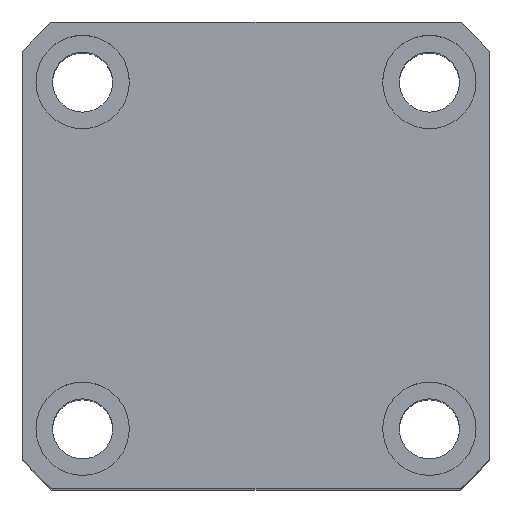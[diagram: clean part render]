
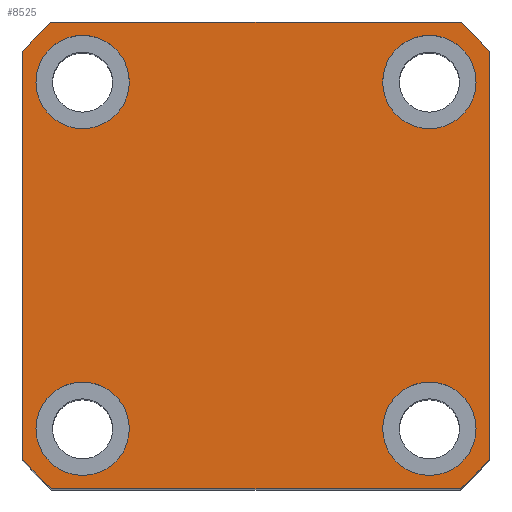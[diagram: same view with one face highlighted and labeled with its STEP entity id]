
A CAD part, top view. The second image highlights one B-rep face of the part: STEP entity #8525.
In plain terms, the highlighted planar face has unit normal (0, 0, 1).
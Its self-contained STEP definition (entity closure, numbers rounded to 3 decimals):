
#95 = CARTESIAN_POINT ( 'NONE',  ( 33., 26., 105. ) ) ;
#166 = ORIENTED_EDGE ( 'NONE', *, *, #11363, .T. ) ;
#173 = AXIS2_PLACEMENT_3D ( 'NONE', #8719, #2447, #9776 ) ;
#181 = CARTESIAN_POINT ( 'NONE',  ( -35., 35., 105. ) ) ;
#194 = VERTEX_POINT ( 'NONE', #4315 ) ;
#300 = ORIENTED_EDGE ( 'NONE', *, *, #3743, .F. ) ;
#516 = CARTESIAN_POINT ( 'NONE',  ( 19., 26., 105. ) ) ;
#624 = CARTESIAN_POINT ( 'NONE',  ( 30.615, 35., 105. ) ) ;
#759 = VERTEX_POINT ( 'NONE', #624 ) ;
#825 = DIRECTION ( 'NONE',  ( 0., 0., 1. ) ) ;
#907 = CARTESIAN_POINT ( 'NONE',  ( 33., -26., 105. ) ) ;
#1217 = EDGE_LOOP ( 'NONE', ( #8438, #6293 ) ) ;
#1309 = FACE_BOUND ( 'NONE', #1217, .T. ) ;
#1448 = EDGE_CURVE ( 'NONE', #194, #10949, #11471, .T. ) ;
#1556 = CARTESIAN_POINT ( 'NONE',  ( 26., 26., 105. ) ) ;
#1774 = CARTESIAN_POINT ( 'NONE',  ( 26., -26., 105. ) ) ;
#1781 = VERTEX_POINT ( 'NONE', #1876 ) ;
#1834 = AXIS2_PLACEMENT_3D ( 'NONE', #9453, #3192, #10516 ) ;
#1876 = CARTESIAN_POINT ( 'NONE',  ( -30.615, 35., 105. ) ) ;
#1946 = LINE ( 'NONE', #2191, #13389 ) ;
#2007 = DIRECTION ( 'NONE',  ( 1., 0., 0. ) ) ;
#2052 = DIRECTION ( 'NONE',  ( 0., 0., 1. ) ) ;
#2092 = CIRCLE ( 'NONE', #173, 46.5 ) ;
#2104 = CARTESIAN_POINT ( 'NONE',  ( -26., 26., 105. ) ) ;
#2191 = CARTESIAN_POINT ( 'NONE',  ( -35., -35., 105. ) ) ;
#2281 = DIRECTION ( 'NONE',  ( 0., -1., 0. ) ) ;
#2445 = EDGE_CURVE ( 'NONE', #9306, #12026, #11429, .T. ) ;
#2447 = DIRECTION ( 'NONE',  ( 0., 0., 1. ) ) ;
#2479 = EDGE_CURVE ( 'NONE', #759, #1781, #11107, .T. ) ;
#2513 = AXIS2_PLACEMENT_3D ( 'NONE', #11117, #4828, #12150 ) ;
#2556 = AXIS2_PLACEMENT_3D ( 'NONE', #11596, #5329, #12644 ) ;
#2637 = DIRECTION ( 'NONE',  ( 1., 0., 0. ) ) ;
#2640 = VERTEX_POINT ( 'NONE', #907 ) ;
#2668 = DIRECTION ( 'NONE',  ( 0., 0., 1. ) ) ;
#2845 = DIRECTION ( 'NONE',  ( 1., 0., 0. ) ) ;
#3068 = VERTEX_POINT ( 'NONE', #13459 ) ;
#3167 = ORIENTED_EDGE ( 'NONE', *, *, #4398, .T. ) ;
#3171 = CARTESIAN_POINT ( 'NONE',  ( 35., -30.615, 105. ) ) ;
#3192 = DIRECTION ( 'NONE',  ( 0., 0., 1. ) ) ;
#3230 = CIRCLE ( 'NONE', #2513, 46.5 ) ;
#3231 = CARTESIAN_POINT ( 'NONE',  ( 0., 0., 105. ) ) ;
#3256 = ORIENTED_EDGE ( 'NONE', *, *, #2445, .T. ) ;
#3381 = CIRCLE ( 'NONE', #1834, 7. ) ;
#3513 = ORIENTED_EDGE ( 'NONE', *, *, #13531, .T. ) ;
#3578 = CARTESIAN_POINT ( 'NONE',  ( 19., -26., 105. ) ) ;
#3583 = EDGE_CURVE ( 'NONE', #10949, #194, #6018, .T. ) ;
#3743 = EDGE_CURVE ( 'NONE', #2640, #5427, #10946, .T. ) ;
#4021 = EDGE_CURVE ( 'NONE', #7559, #12134, #4399, .T. ) ;
#4216 = CARTESIAN_POINT ( 'NONE',  ( -35., 30.615, 105. ) ) ;
#4270 = DIRECTION ( 'NONE',  ( 1., 0., 0. ) ) ;
#4315 = CARTESIAN_POINT ( 'NONE',  ( -33., 26., 105. ) ) ;
#4382 = CARTESIAN_POINT ( 'NONE',  ( -35., 35., 105. ) ) ;
#4398 = EDGE_CURVE ( 'NONE', #3068, #9306, #2092, .T. ) ;
#4399 = CIRCLE ( 'NONE', #2556, 7. ) ;
#4583 = VERTEX_POINT ( 'NONE', #4709 ) ;
#4673 = CARTESIAN_POINT ( 'NONE',  ( -19., -26., 105. ) ) ;
#4709 = CARTESIAN_POINT ( 'NONE',  ( -30.615, -35., 105. ) ) ;
#4712 = EDGE_CURVE ( 'NONE', #5427, #2640, #6352, .T. ) ;
#4795 = DIRECTION ( 'NONE',  ( 0., 0., 1. ) ) ;
#4828 = DIRECTION ( 'NONE',  ( 0., 0., 1. ) ) ;
#4900 = AXIS2_PLACEMENT_3D ( 'NONE', #2104, #2052, #2007 ) ;
#4981 = ORIENTED_EDGE ( 'NONE', *, *, #4712, .F. ) ;
#5161 = EDGE_LOOP ( 'NONE', ( #3256, #6207, #6866, #166, #12980, #5633, #3513, #3167 ) ) ;
#5268 = DIRECTION ( 'NONE',  ( 0., 1., 0. ) ) ;
#5329 = DIRECTION ( 'NONE',  ( 0., 0., 1. ) ) ;
#5414 = CARTESIAN_POINT ( 'NONE',  ( 35., 35., 105. ) ) ;
#5427 = VERTEX_POINT ( 'NONE', #3578 ) ;
#5606 = AXIS2_PLACEMENT_3D ( 'NONE', #1774, #9107, #2845 ) ;
#5633 = ORIENTED_EDGE ( 'NONE', *, *, #11239, .T. ) ;
#5759 = DIRECTION ( 'NONE',  ( 1., 0., 0. ) ) ;
#5775 = DIRECTION ( 'NONE',  ( 0., 0., 1. ) ) ;
#5795 = VERTEX_POINT ( 'NONE', #4673 ) ;
#5820 = CARTESIAN_POINT ( 'NONE',  ( -26., 26., 105. ) ) ;
#5874 = CARTESIAN_POINT ( 'NONE',  ( -19., 26., 105. ) ) ;
#6018 = CIRCLE ( 'NONE', #4900, 7. ) ;
#6171 = VECTOR ( 'NONE', #5268, 1000. ) ;
#6207 = ORIENTED_EDGE ( 'NONE', *, *, #6698, .T. ) ;
#6235 = CARTESIAN_POINT ( 'NONE',  ( 35., 30.615, 105. ) ) ;
#6293 = ORIENTED_EDGE ( 'NONE', *, *, #4021, .F. ) ;
#6352 = CIRCLE ( 'NONE', #5606, 7. ) ;
#6561 = FACE_OUTER_BOUND ( 'NONE', #5161, .T. ) ;
#6698 = EDGE_CURVE ( 'NONE', #12026, #759, #12956, .T. ) ;
#6776 = ORIENTED_EDGE ( 'NONE', *, *, #1448, .F. ) ;
#6842 = DIRECTION ( 'NONE',  ( 1., 0., 0. ) ) ;
#6866 = ORIENTED_EDGE ( 'NONE', *, *, #2479, .T. ) ;
#7003 = EDGE_CURVE ( 'NONE', #9705, #5795, #11339, .T. ) ;
#7114 = CARTESIAN_POINT ( 'NONE',  ( 0., 0., 105. ) ) ;
#7321 = VECTOR ( 'NONE', #2281, 1000. ) ;
#7397 = AXIS2_PLACEMENT_3D ( 'NONE', #8927, #4795, #12119 ) ;
#7448 = AXIS2_PLACEMENT_3D ( 'NONE', #5820, #5775, #5759 ) ;
#7460 = AXIS2_PLACEMENT_3D ( 'NONE', #3231, #10561, #4270 ) ;
#7513 = AXIS2_PLACEMENT_3D ( 'NONE', #1556, #8901, #2637 ) ;
#7559 = VERTEX_POINT ( 'NONE', #516 ) ;
#8174 = DIRECTION ( 'NONE',  ( 1., 0., 0. ) ) ;
#8290 = VERTEX_POINT ( 'NONE', #4216 ) ;
#8311 = VECTOR ( 'NONE', #11823, 1000. ) ;
#8438 = ORIENTED_EDGE ( 'NONE', *, *, #10427, .F. ) ;
#8468 = DIRECTION ( 'NONE',  ( 1., 0., 0. ) ) ;
#8471 = CIRCLE ( 'NONE', #10226, 46.5 ) ;
#8525 = ADVANCED_FACE ( 'NONE', ( #9690, #9340, #1309, #12120, #6561 ), #8968, .T. ) ;
#8719 = CARTESIAN_POINT ( 'NONE',  ( 0., 0., 105. ) ) ;
#8786 = DIRECTION ( 'NONE',  ( 0., 0., 1. ) ) ;
#8831 = CARTESIAN_POINT ( 'NONE',  ( 26., -26., 105. ) ) ;
#8901 = DIRECTION ( 'NONE',  ( 0., 0., 1. ) ) ;
#8914 = ORIENTED_EDGE ( 'NONE', *, *, #3583, .F. ) ;
#8927 = CARTESIAN_POINT ( 'NONE',  ( 0., 0., 105. ) ) ;
#8932 = CARTESIAN_POINT ( 'NONE',  ( -26., -26., 105. ) ) ;
#8968 = PLANE ( 'NONE',  #7397 ) ;
#9107 = DIRECTION ( 'NONE',  ( 0., 0., 1. ) ) ;
#9306 = VERTEX_POINT ( 'NONE', #3171 ) ;
#9340 = FACE_BOUND ( 'NONE', #12525, .T. ) ;
#9453 = CARTESIAN_POINT ( 'NONE',  ( -26., -26., 105. ) ) ;
#9690 = FACE_BOUND ( 'NONE', #10246, .T. ) ;
#9705 = VERTEX_POINT ( 'NONE', #12383 ) ;
#9776 = DIRECTION ( 'NONE',  ( 1., 0., 0. ) ) ;
#9833 = EDGE_CURVE ( 'NONE', #8290, #11161, #12893, .T. ) ;
#9837 = AXIS2_PLACEMENT_3D ( 'NONE', #8831, #8786, #6842 ) ;
#9989 = DIRECTION ( 'NONE',  ( 1., 0., 0. ) ) ;
#10226 = AXIS2_PLACEMENT_3D ( 'NONE', #7114, #825, #8174 ) ;
#10246 = EDGE_LOOP ( 'NONE', ( #10351, #11005 ) ) ;
#10261 = AXIS2_PLACEMENT_3D ( 'NONE', #8932, #2668, #9989 ) ;
#10351 = ORIENTED_EDGE ( 'NONE', *, *, #12693, .F. ) ;
#10427 = EDGE_CURVE ( 'NONE', #12134, #7559, #10616, .T. ) ;
#10516 = DIRECTION ( 'NONE',  ( 1., 0., 0. ) ) ;
#10561 = DIRECTION ( 'NONE',  ( 0., 0., 1. ) ) ;
#10616 = CIRCLE ( 'NONE', #7513, 7. ) ;
#10946 = CIRCLE ( 'NONE', #9837, 7. ) ;
#10949 = VERTEX_POINT ( 'NONE', #5874 ) ;
#11005 = ORIENTED_EDGE ( 'NONE', *, *, #7003, .F. ) ;
#11107 = LINE ( 'NONE', #181, #8311 ) ;
#11117 = CARTESIAN_POINT ( 'NONE',  ( 0., 0., 105. ) ) ;
#11161 = VERTEX_POINT ( 'NONE', #12018 ) ;
#11239 = EDGE_CURVE ( 'NONE', #11161, #4583, #3230, .T. ) ;
#11339 = CIRCLE ( 'NONE', #10261, 7. ) ;
#11363 = EDGE_CURVE ( 'NONE', #1781, #8290, #8471, .T. ) ;
#11429 = LINE ( 'NONE', #5414, #6171 ) ;
#11471 = CIRCLE ( 'NONE', #7448, 7. ) ;
#11596 = CARTESIAN_POINT ( 'NONE',  ( 26., 26., 105. ) ) ;
#11823 = DIRECTION ( 'NONE',  ( -1., 0., 0. ) ) ;
#12018 = CARTESIAN_POINT ( 'NONE',  ( -35., -30.615, 105. ) ) ;
#12026 = VERTEX_POINT ( 'NONE', #6235 ) ;
#12119 = DIRECTION ( 'NONE',  ( 1., 0., 0. ) ) ;
#12120 = FACE_BOUND ( 'NONE', #12806, .T. ) ;
#12134 = VERTEX_POINT ( 'NONE', #95 ) ;
#12150 = DIRECTION ( 'NONE',  ( 1., 0., 0. ) ) ;
#12383 = CARTESIAN_POINT ( 'NONE',  ( -33., -26., 105. ) ) ;
#12525 = EDGE_LOOP ( 'NONE', ( #300, #4981 ) ) ;
#12644 = DIRECTION ( 'NONE',  ( 1., 0., 0. ) ) ;
#12693 = EDGE_CURVE ( 'NONE', #5795, #9705, #3381, .T. ) ;
#12806 = EDGE_LOOP ( 'NONE', ( #8914, #6776 ) ) ;
#12893 = LINE ( 'NONE', #4382, #7321 ) ;
#12956 = CIRCLE ( 'NONE', #7460, 46.5 ) ;
#12980 = ORIENTED_EDGE ( 'NONE', *, *, #9833, .T. ) ;
#13389 = VECTOR ( 'NONE', #8468, 1000. ) ;
#13459 = CARTESIAN_POINT ( 'NONE',  ( 30.615, -35., 105. ) ) ;
#13531 = EDGE_CURVE ( 'NONE', #4583, #3068, #1946, .T. ) ;
